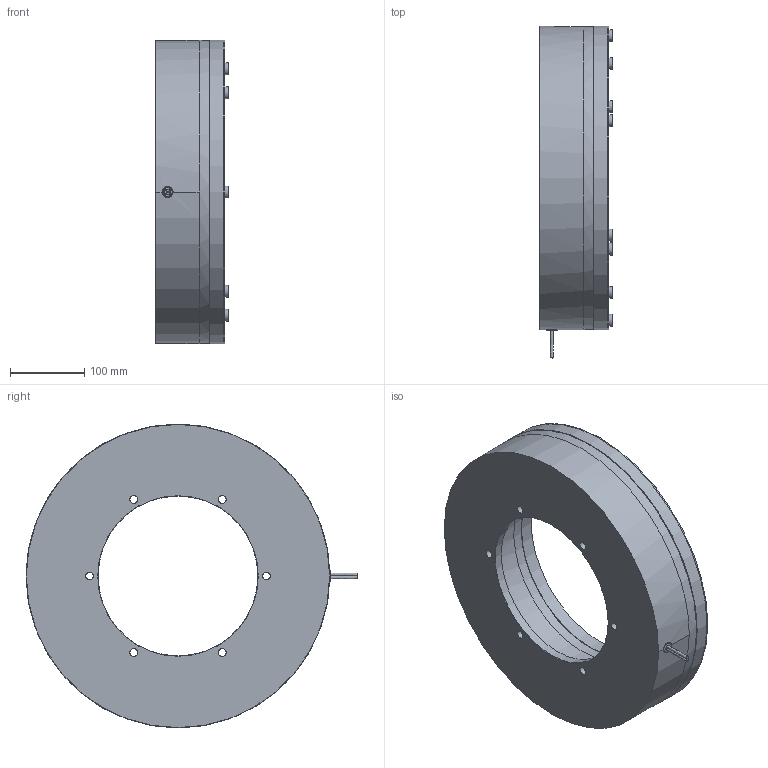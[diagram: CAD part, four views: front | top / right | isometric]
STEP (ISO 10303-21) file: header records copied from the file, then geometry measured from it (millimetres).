
FILE_DESCRIPTION(/* description */ (''),/* implementation_level */ '2;1');
FILE_NAME(/* name */ 'X:\INVENTOR\DISEGNI\08_Freni_Friz_Elettmag_Monodisco\08_28 EMFL_DF\EMFL_DF STEP\08_28_400_11 EMFL400_DF-B@STEP.stp',/* time_stamp */ '2018-04-23T16:11:36+02:00',/* author */ ('stefano'),/* organization */ (''),/* preprocessor_version */ 'ST-DEVELOPER v17',/* originating_system */ 'Autodesk Inventor 2018',/* authorisation */ '');
FILE_SCHEMA (('AUTOMOTIVE_DESIGN { 1 0 10303 214 3 1 1 }'));
Length unit declared in the file: millimetre
Products named in the file (1): 08_28_400_11 EMFL400_DF-B_Substitute_1
Bounding box: 97.5 x 446.72 x 409 mm (x, y, z)
Volume: 7086426.1 mm3; surface area: 713901.4 mm2
Topology: 4 solids, 4 shells, 372 faces, 1129 edges, 760 vertices
Faces by surface type: cylinder 258, plane 86, cone 25, bspline 3
Full cylindrical faces by diameter (mm): 3 x12, 10.5 x6, 12 x1, 12.1 x6, 15 x1, 16 x12, 17.8 x12, 18 x12, 215 x1, 260 x3, 270 x1, 306 x1, 376 x1, 408 x1, 409 x2
Entity records: 14078 total; most frequent: DIRECTION 2700, CARTESIAN_POINT 2468, ORIENTED_EDGE 2262, AXIS2_PLACEMENT_3D 1207, EDGE_CURVE 1131, CIRCLE 837, VERTEX_POINT 761, EDGE_LOOP 499
